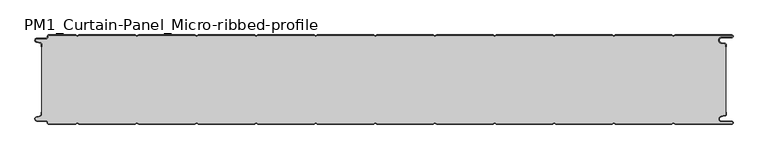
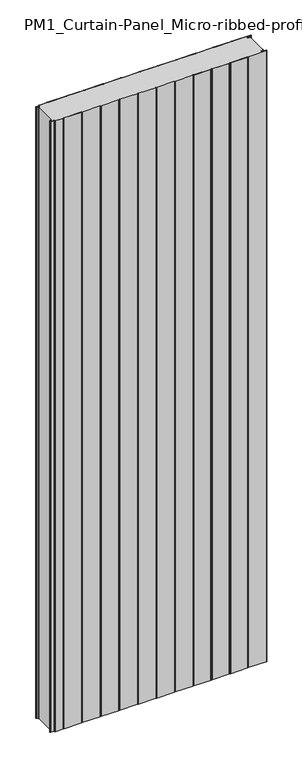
"""IFC4 building model written with IfcOpenShell, lengths in millimetres: plate geometry, PM1_Curtain-Panel_Micro-ribbed-profile : ACH_PM1_Stone-wool-Panel_150M."""

from ifc_helpers import new_model, si_unit, point, frame_2d, origin, origin_with_axes, place, context, project, spatial, polyline, circle_curve, trimmed, segment, composite_curve, outline, extrude, source, transform, mapped, element, save


def pm1_curtain_panel_micro_ribbed_profile_832396b1(model_context):
    return source(origin(), model_context, "Body", "SweptSolid", [
        extrude(outline(composite_curve([segment(trimmed(circle_curve(frame_2d((-577.0, -15.878557)), 2.0), [point((-575.0, -15.878557))], [point((-576.5500978, -13.9298169))], True, "CARTESIAN"), True, "CONTINUOUS"), segment(polyline([(-576.5500978, -13.9298169), (-582.7098239, -12.507732)]), True, "CONTINUOUS"), segment(trimmed(circle_curve(frame_2d((-581.9, -9.0)), 3.6), [point((-582.7098239, -12.507732))], [point((-581.9, -5.4))], False, "CARTESIAN"), True, "CONTINUOUS"), segment(polyline([(-581.9, -5.4), (-566.4, -5.4)]), True, "CONTINUOUS"), segment(trimmed(circle_curve(frame_2d((-566.4, -3.4)), 2.0), [point((-566.4, -5.4))], [point((-564.4, -3.4))], True, "CARTESIAN"), True, "CONTINUOUS"), segment(polyline([(-564.4, -3.4), (-564.4, -2.0)]), True, "CONTINUOUS"), segment(trimmed(circle_curve(frame_2d((-562.4, -2.0)), 2.0), [point((-564.4, -2.0))], [point((-562.4, 0.0))], False, "CARTESIAN"), True, "CONTINUOUS"), segment(polyline([(-562.4, 0.0), (-517.0999995, 0.0), (-514.4, -1.5588455), (-511.7000005, 0.0), (-417.0999995, 0.0), (-414.4, -1.5588455), (-411.7000005, 0.0), (-317.0999995, 0.0), (-314.4, -1.5588455), (-311.7000005, 0.0), (-217.0999995, 0.0), (-214.4, -1.5588455), (-211.7000005, 0.0), (-117.0999995, 0.0), (-114.4, -1.5588455), (-111.7000005, 0.0), (-17.0999995, 0.0), (-14.4, -1.5588455), (-11.7000005, 0.0), (82.9000005, 0.0), (85.6, -1.5588455), (88.2999995, 0.0), (182.9000005, 0.0), (185.6, -1.5588455), (188.2999995, 0.0), (282.9000005, 0.0), (285.6, -1.5588455), (288.2999995, 0.0), (382.9000005, 0.0), (385.6, -1.5588455), (388.2999995, 0.0), (482.9000005, 0.0), (485.6, -1.5588455), (488.2999995, 0.0), (583.1, 0.0)]), True, "CONTINUOUS"), segment(trimmed(circle_curve(frame_2d((583.1, -2.5)), 2.5), [point((583.1, 0.0))], [point((583.1, -5.0))], False, "CARTESIAN"), True, "CONTINUOUS"), segment(polyline([(583.1, -5.0), (566.1, -5.0)]), True, "CONTINUOUS"), segment(trimmed(circle_curve(frame_2d((566.1, -9.0)), 4.0), [point((566.1, -5.0))], [point((565.405407, -12.939231))], True, "CARTESIAN"), True, "CONTINUOUS"), segment(polyline([(565.405407, -12.939231), (571.8514855, -14.0758491)]), True, "CONTINUOUS"), segment(trimmed(circle_curve(frame_2d((571.4, -16.6363492)), 2.6), [point((571.8514855, -14.0758491))], [point((574.0, -16.6363492))], False, "CARTESIAN"), True, "CONTINUOUS"), segment(polyline([(574.0, -16.6363492), (574.0, -20.0), (573.2, -20.0), (573.2, -16.6363492)]), True, "CONTINUOUS"), segment(trimmed(circle_curve(frame_2d((571.4, -16.6363492)), 1.8), [point((573.2, -16.6363492))], [point((571.7125669, -14.8636953))], True, "CARTESIAN"), True, "CONTINUOUS"), segment(polyline([(571.7125669, -14.8636953), (565.2664884, -13.7270772)]), True, "CONTINUOUS"), segment(trimmed(circle_curve(frame_2d((566.1, -9.0)), 4.8), [point((565.2664884, -13.7270772))], [point((566.1, -4.2))], False, "CARTESIAN"), True, "CONTINUOUS"), segment(polyline([(566.1, -4.2), (583.1, -4.2)]), True, "CONTINUOUS"), segment(trimmed(circle_curve(frame_2d((583.1, -2.5)), 1.7), [point((583.1, -4.2))], [point((583.1, -0.8))], True, "CARTESIAN"), True, "CONTINUOUS"), segment(polyline([(583.1, -0.8), (488.5143588, -0.8), (485.6, -2.482606), (482.6856412, -0.8), (388.5143588, -0.8), (385.6, -2.482606), (382.6856412, -0.8), (288.5143588, -0.8), (285.6, -2.482606), (282.6856412, -0.8), (188.5143588, -0.8), (185.6, -2.482606), (182.6856412, -0.8), (88.5143588, -0.8), (85.6, -2.482606), (82.6856412, -0.8), (-11.4856412, -0.8), (-14.4, -2.482606), (-17.3143588, -0.8), (-111.4856412, -0.8), (-114.4, -2.482606), (-117.3143588, -0.8), (-211.4856412, -0.8), (-214.4, -2.482606), (-217.3143588, -0.8), (-311.4856412, -0.8), (-314.4, -2.482606), (-317.3143588, -0.8), (-411.4856412, -0.8), (-414.4, -2.482606), (-417.3143588, -0.8), (-511.4856412, -0.8), (-514.4, -2.482606), (-517.3143588, -0.8), (-562.4, -0.8)]), True, "CONTINUOUS"), segment(trimmed(circle_curve(frame_2d((-562.4, -2.0)), 1.2), [point((-562.4, -0.8))], [point((-563.6, -2.0))], True, "CARTESIAN"), True, "CONTINUOUS"), segment(polyline([(-563.6, -2.0), (-563.6, -3.4)]), True, "CONTINUOUS"), segment(trimmed(circle_curve(frame_2d((-566.4, -3.4)), 2.8), [point((-563.6, -3.4))], [point((-566.4, -6.2))], False, "CARTESIAN"), True, "CONTINUOUS"), segment(polyline([(-566.4, -6.2), (-581.9, -6.2)]), True, "CONTINUOUS"), segment(trimmed(circle_curve(frame_2d((-581.9, -9.0)), 2.8), [point((-581.9, -6.2))], [point((-582.529863, -11.7282362))], True, "CARTESIAN"), True, "CONTINUOUS"), segment(polyline([(-582.529863, -11.7282362), (-576.370137, -13.150321)]), True, "CONTINUOUS"), segment(trimmed(circle_curve(frame_2d((-577.0, -15.878557)), 2.8), [point((-576.370137, -13.150321))], [point((-574.2, -15.878557))], False, "CARTESIAN"), True, "CONTINUOUS"), segment(polyline([(-574.2, -15.878557), (-574.2, -20.0), (-575.0, -20.0), (-575.0, -15.878557)]), True, "CONTINUOUS")], self_intersect=False)), origin_with_axes(), (0.0, 0.0, 1.0), 3500.0),
        extrude(outline(composite_curve([segment(polyline([(-574.2, -134.1214426), (-574.2, -15.8785573)]), True, "CONTINUOUS"), segment(trimmed(circle_curve(frame_2d((-577.0, -15.8785573)), 2.8), [point((-574.2, -15.8785573))], [point((-576.370137, -13.1503212))], True, "CARTESIAN"), True, "CONTINUOUS"), segment(polyline([(-576.370137, -13.1503212), (-582.5298631, -11.7282362)]), True, "CONTINUOUS"), segment(trimmed(circle_curve(frame_2d((-581.9, -9.0)), 2.8), [point((-582.5298631, -11.7282362))], [point((-581.9, -6.2))], False, "CARTESIAN"), True, "CONTINUOUS"), segment(polyline([(-581.9, -6.2), (-566.4000001, -6.2)]), True, "CONTINUOUS"), segment(trimmed(circle_curve(frame_2d((-566.4000001, -3.4)), 2.8), [point((-566.4000001, -6.2))], [point((-563.6000001, -3.4))], True, "CARTESIAN"), True, "CONTINUOUS"), segment(polyline([(-563.6000001, -3.4), (-563.6000001, -2.0)]), True, "CONTINUOUS"), segment(trimmed(circle_curve(frame_2d((-562.4000001, -2.0)), 1.2), [point((-563.6000001, -2.0))], [point((-562.4000001, -0.8))], False, "CARTESIAN"), True, "CONTINUOUS"), segment(polyline([(-562.4000001, -0.8), (-517.3143589, -0.8), (-514.4000001, -2.482606), (-511.4856412, -0.8), (-417.3143589, -0.8), (-414.4000001, -2.482606), (-411.4856412, -0.8), (-317.3143589, -0.8), (-314.4000001, -2.482606), (-311.4856412, -0.8), (-217.3143589, -0.8), (-214.4000001, -2.482606), (-211.4856412, -0.8), (-117.3143589, -0.8), (-114.4000001, -2.482606), (-111.4856412, -0.8), (-17.3143589, -0.8), (-14.4000001, -2.482606), (-11.4856412, -0.8), (82.6856411, -0.8), (85.5999999, -2.482606), (88.5143588, -0.8), (182.6856411, -0.8), (185.5999999, -2.482606), (188.5143588, -0.8), (282.6856411, -0.8), (285.5999999, -2.482606), (288.5143588, -0.8), (382.6856411, -0.8), (385.5999999, -2.482606), (388.5143588, -0.8), (482.6856411, -0.8), (485.6, -2.482606), (488.5143588, -0.8), (583.1, -0.8)]), True, "CONTINUOUS"), segment(trimmed(circle_curve(frame_2d((583.1, -2.5)), 1.7), [point((583.1, -0.8))], [point((583.1, -4.2))], False, "CARTESIAN"), True, "CONTINUOUS"), segment(polyline([(583.1, -4.2), (566.1, -4.2)]), True, "CONTINUOUS"), segment(trimmed(circle_curve(frame_2d((566.1, -9.0)), 4.8), [point((566.1, -4.2))], [point((565.2664883, -13.7270771))], True, "CARTESIAN"), True, "CONTINUOUS"), segment(polyline([(565.2664883, -13.7270771), (571.7125668, -14.8636953)]), True, "CONTINUOUS"), segment(trimmed(circle_curve(frame_2d((571.4, -16.6363492)), 1.8), [point((571.7125668, -14.8636953))], [point((573.2, -16.6363492))], False, "CARTESIAN"), True, "CONTINUOUS"), segment(polyline([(573.2, -16.6363492), (573.2, -133.3636508)]), True, "CONTINUOUS"), segment(trimmed(circle_curve(frame_2d((571.4, -133.3636508)), 1.8), [point((573.2, -133.3636508))], [point((571.7125668, -135.1363047))], False, "CARTESIAN"), True, "CONTINUOUS"), segment(polyline([(571.7125668, -135.1363047), (565.2664883, -136.2729229)]), True, "CONTINUOUS"), segment(trimmed(circle_curve(frame_2d((566.1, -141.0)), 4.8), [point((565.2664883, -136.2729229))], [point((566.1, -145.8))], True, "CARTESIAN"), True, "CONTINUOUS"), segment(polyline([(566.1, -145.8), (583.1, -145.8)]), True, "CONTINUOUS"), segment(trimmed(circle_curve(frame_2d((583.1, -147.5)), 1.7), [point((583.1, -145.8))], [point((583.1, -149.2))], False, "CARTESIAN"), True, "CONTINUOUS"), segment(polyline([(583.1, -149.2), (488.5143588, -149.2), (485.6, -147.517394), (482.6856411, -149.2), (388.5143588, -149.2), (385.5999999, -147.517394), (382.6856411, -149.2), (288.5143588, -149.2), (285.5999999, -147.517394), (282.6856411, -149.2), (188.5143588, -149.2), (185.5999999, -147.517394), (182.6856411, -149.2), (88.5143588, -149.2), (85.5999999, -147.517394), (82.6856411, -149.2), (-11.4856412, -149.2), (-14.4000001, -147.517394), (-17.3143589, -149.2), (-111.4856412, -149.2), (-114.4000001, -147.517394), (-117.3143589, -149.2), (-211.4856412, -149.2), (-214.4000001, -147.517394), (-217.3143589, -149.2), (-311.4856412, -149.2), (-314.4000001, -147.517394), (-317.3143589, -149.2), (-411.4856412, -149.2), (-414.4000001, -147.517394), (-417.3143589, -149.2), (-511.4856412, -149.2), (-514.4000001, -147.517394), (-517.3143589, -149.2), (-562.4000001, -149.2)]), True, "CONTINUOUS"), segment(trimmed(circle_curve(frame_2d((-562.4000001, -148.0)), 1.2), [point((-562.4000001, -149.2))], [point((-563.6000001, -148.0))], False, "CARTESIAN"), True, "CONTINUOUS"), segment(polyline([(-563.6000001, -148.0), (-563.6000001, -146.6)]), True, "CONTINUOUS"), segment(trimmed(circle_curve(frame_2d((-566.4000001, -146.6)), 2.8), [point((-563.6000001, -146.6))], [point((-566.4000001, -143.8))], True, "CARTESIAN"), True, "CONTINUOUS"), segment(polyline([(-566.4000001, -143.8), (-581.9, -143.8)]), True, "CONTINUOUS"), segment(trimmed(circle_curve(frame_2d((-581.9, -141.0)), 2.8), [point((-581.9, -143.8))], [point((-582.5298631, -138.2717638))], False, "CARTESIAN"), True, "CONTINUOUS"), segment(polyline([(-582.5298631, -138.2717638), (-576.370137, -136.8496788)]), True, "CONTINUOUS"), segment(trimmed(circle_curve(frame_2d((-577.0, -134.1214426)), 2.8), [point((-576.370137, -136.8496788))], [point((-574.2, -134.1214426))], True, "CARTESIAN"), True, "CONTINUOUS")], self_intersect=False)), origin_with_axes(), (0.0, 0.0, 1.0), 3500.0),
        extrude(outline(composite_curve([segment(polyline([(-575.0, -134.121443), (-575.0, -130.0), (-574.2, -130.0), (-574.2, -134.121443)]), True, "CONTINUOUS"), segment(trimmed(circle_curve(frame_2d((-577.0, -134.121443)), 2.8), [point((-574.2, -134.121443))], [point((-576.370137, -136.8496792))], False, "CARTESIAN"), True, "CONTINUOUS"), segment(polyline([(-576.370137, -136.8496792), (-582.529863, -138.271764)]), True, "CONTINUOUS"), segment(trimmed(circle_curve(frame_2d((-581.9, -141.0)), 2.8), [point((-582.529863, -138.271764))], [point((-581.9, -143.8))], True, "CARTESIAN"), True, "CONTINUOUS"), segment(polyline([(-581.9, -143.8), (-566.4, -143.8)]), True, "CONTINUOUS"), segment(trimmed(circle_curve(frame_2d((-566.4, -146.6)), 2.8), [point((-566.4, -143.8))], [point((-563.6, -146.6))], False, "CARTESIAN"), True, "CONTINUOUS"), segment(polyline([(-563.6, -146.6), (-563.6, -148.0)]), True, "CONTINUOUS"), segment(trimmed(circle_curve(frame_2d((-562.4, -148.0)), 1.2), [point((-563.6, -148.0))], [point((-562.4, -149.2))], True, "CARTESIAN"), True, "CONTINUOUS"), segment(polyline([(-562.4, -149.2), (-517.3143588, -149.2), (-514.4, -147.517394), (-511.4856412, -149.2), (-417.3143588, -149.2), (-414.4, -147.517394), (-411.4856412, -149.2), (-317.3143588, -149.2), (-314.4, -147.517394), (-311.4856412, -149.2), (-217.3143588, -149.2), (-214.4, -147.517394), (-211.4856412, -149.2), (-117.3143588, -149.2), (-114.4, -147.517394), (-111.4856412, -149.2), (-17.3143588, -149.2), (-14.4, -147.517394), (-11.4856412, -149.2), (82.6856412, -149.2), (85.6, -147.517394), (88.5143588, -149.2), (182.6856412, -149.2), (185.6, -147.517394), (188.5143588, -149.2), (282.6856412, -149.2), (285.6, -147.517394), (288.5143588, -149.2), (382.6856412, -149.2), (385.6, -147.517394), (388.5143588, -149.2), (482.6856412, -149.2), (485.6, -147.517394), (488.5143588, -149.2), (583.1, -149.2)]), True, "CONTINUOUS"), segment(trimmed(circle_curve(frame_2d((583.1, -147.5)), 1.7), [point((583.1, -149.2))], [point((583.1, -145.8))], True, "CARTESIAN"), True, "CONTINUOUS"), segment(polyline([(583.1, -145.8), (566.1, -145.8)]), True, "CONTINUOUS"), segment(trimmed(circle_curve(frame_2d((566.1, -141.0)), 4.8), [point((566.1, -145.8))], [point((565.2664884, -136.2729229))], False, "CARTESIAN"), True, "CONTINUOUS"), segment(polyline([(565.2664884, -136.2729229), (571.7125669, -135.1363047)]), True, "CONTINUOUS"), segment(trimmed(circle_curve(frame_2d((571.4, -133.3636508)), 1.8), [point((571.7125669, -135.1363047))], [point((573.2, -133.3636508))], True, "CARTESIAN"), True, "CONTINUOUS"), segment(polyline([(573.2, -133.3636508), (573.2, -130.0), (574.0, -130.0), (574.0, -133.3636508)]), True, "CONTINUOUS"), segment(trimmed(circle_curve(frame_2d((571.4, -133.3636508)), 2.6), [point((574.0, -133.3636508))], [point((571.8514855, -135.9241509))], False, "CARTESIAN"), True, "CONTINUOUS"), segment(polyline([(571.8514855, -135.9241509), (565.405407, -137.060769)]), True, "CONTINUOUS"), segment(trimmed(circle_curve(frame_2d((566.1, -141.0)), 4.0), [point((565.405407, -137.060769))], [point((566.1, -145.0))], True, "CARTESIAN"), True, "CONTINUOUS"), segment(polyline([(566.1, -145.0), (583.1, -145.0)]), True, "CONTINUOUS"), segment(trimmed(circle_curve(frame_2d((583.1, -147.5)), 2.5), [point((583.1, -145.0))], [point((583.1, -150.0))], False, "CARTESIAN"), True, "CONTINUOUS"), segment(polyline([(583.1, -150.0), (488.2999995, -150.0), (485.6, -148.4411545), (482.9000005, -150.0), (388.2999995, -150.0), (385.6, -148.4411545), (382.9000005, -150.0), (288.2999995, -150.0), (285.6, -148.4411545), (282.9000005, -150.0), (188.2999995, -150.0), (185.6, -148.4411545), (182.9000005, -150.0), (88.2999995, -150.0), (85.6, -148.4411545), (82.9000005, -150.0), (-11.7000005, -150.0), (-14.4, -148.4411545), (-17.0999995, -150.0), (-111.7000005, -150.0), (-114.4, -148.4411545), (-117.0999995, -150.0), (-211.7000005, -150.0), (-214.4, -148.4411545), (-217.0999995, -150.0), (-311.7000005, -150.0), (-314.4, -148.4411545), (-317.0999995, -150.0), (-411.7000005, -150.0), (-414.4, -148.4411545), (-417.0999995, -150.0), (-511.7000005, -150.0), (-514.4, -148.4411545), (-517.0999995, -150.0), (-562.4, -150.0)]), True, "CONTINUOUS"), segment(trimmed(circle_curve(frame_2d((-562.4, -148.0)), 2.0), [point((-562.4, -150.0))], [point((-564.4, -148.0))], False, "CARTESIAN"), True, "CONTINUOUS"), segment(polyline([(-564.4, -148.0), (-564.4, -146.6)]), True, "CONTINUOUS"), segment(trimmed(circle_curve(frame_2d((-566.4, -146.6)), 2.0), [point((-564.4, -146.6))], [point((-566.4, -144.6))], True, "CARTESIAN"), True, "CONTINUOUS"), segment(polyline([(-566.4, -144.6), (-581.9, -144.6)]), True, "CONTINUOUS"), segment(trimmed(circle_curve(frame_2d((-581.9, -141.0)), 3.6), [point((-581.9, -144.6))], [point((-582.7098239, -137.4922678))], False, "CARTESIAN"), True, "CONTINUOUS"), segment(polyline([(-582.7098239, -137.4922678), (-576.5500979, -136.070183)]), True, "CONTINUOUS"), segment(trimmed(circle_curve(frame_2d((-577.0, -134.121443)), 2.0), [point((-576.5500979, -136.070183))], [point((-575.0, -134.121443))], True, "CARTESIAN"), True, "CONTINUOUS")], self_intersect=False)), origin_with_axes(), (0.0, 0.0, 1.0), 3500.0),
    ])


if __name__ == "__main__":
    model = new_model("IFC4")
    model_context = context("Model", 3, world=origin())
    ifc_project = project(units=[si_unit("LENGTHUNIT", "METRE", prefix="MILLI")], contexts=[model_context])
    site = spatial("IfcSite", under=ifc_project)
    building = spatial("IfcBuilding", under=site)
    placement = place(None, origin())
    pm1_curtain_panel_micro_ribbed_profile_shape = pm1_curtain_panel_micro_ribbed_profile_832396b1(model_context)
    element("IfcPlate", 1, ObjectType="PM1_Curtain-Panel_Micro-ribbed-profile : ACH_PM1_Stone-wool-Panel_150M", at=placement, inside=building, context=model_context, shape_type="MappedRepresentation", body=[
        mapped(pm1_curtain_panel_micro_ribbed_profile_shape, transform((0.0, 0.0, 0.0), x_axis=(1.0, 0.0, 0.0), y_axis=(0.0, 1.0, 0.0), z_axis=(0.0, 0.0, 1.0))),
    ])
    save(model, "model.ifc")
